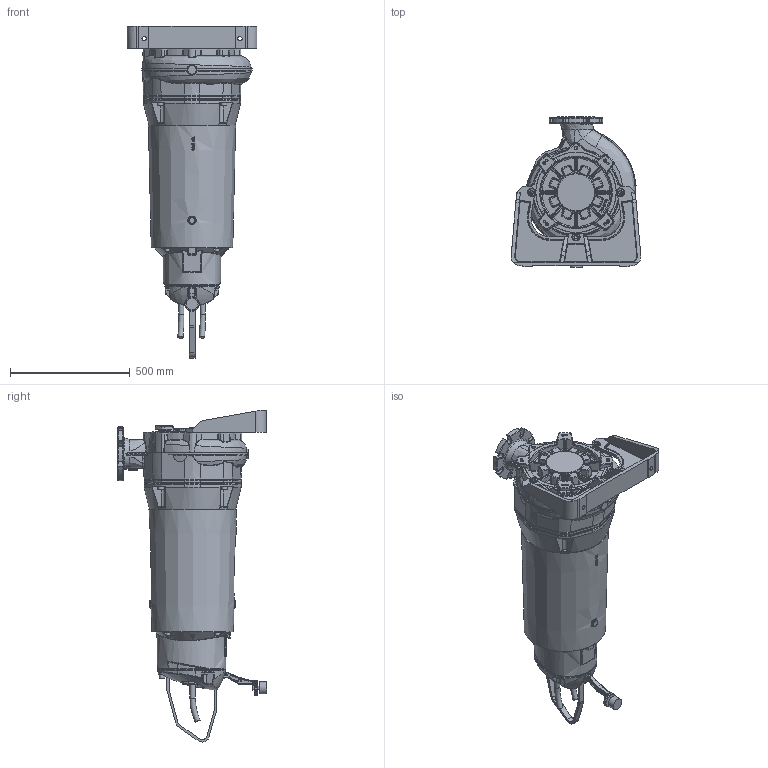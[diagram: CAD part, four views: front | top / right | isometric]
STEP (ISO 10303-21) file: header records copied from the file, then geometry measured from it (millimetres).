
FILE_DESCRIPTION (( 'STEP AP203' ), '1' );
FILE_NAME ('XFP100G-CB1_PE3A_Dry_Horizontal.STEP', '2023-02-28T12:26:28', ( '' ), ( '' ), 'SwSTEP 2.0', 'SolidWorks 2017', '' );
FILE_SCHEMA (( 'CONFIG_CONTROL_DESIGN' ));
Products named in the file (2): XFP100G-CB1_PE3A_Dry_Horizontal
Bounding box: 540.84 x 625 x 1385.2 mm (x, y, z)
Volume: 107666443.3 mm3; surface area: 2240895.4 mm2
Topology: 12 solids, 36 shells, 3594 faces, 8464 edges, 4849 vertices
Faces by surface type: bspline 1088, cylinder 1057, plane 801, torus 426, cone 154, sphere 68
Full cylindrical faces by diameter (mm): 6.8 x2, 8 x7, 8.5 x4, 9 x6, 10 x17, 10.2 x4, 11 x5, 12 x8, 13 x13, 14 x8, 15 x5, 16 x20, 17 x6, 17.5 x2, 18 x14, 22 x2, 24 x6, 26 x6, 40 x1, 50 x1, 60 x1, 158 x1, 335 x1
Entity records: 152255 total; most frequent: CARTESIAN_POINT 81027, ORIENTED_EDGE 15848, DIRECTION 13113, EDGE_CURVE 7924, AXIS2_PLACEMENT_3D 5266, VERTEX_POINT 4741, EDGE_LOOP 3987, FACE_OUTER_BOUND 3796
